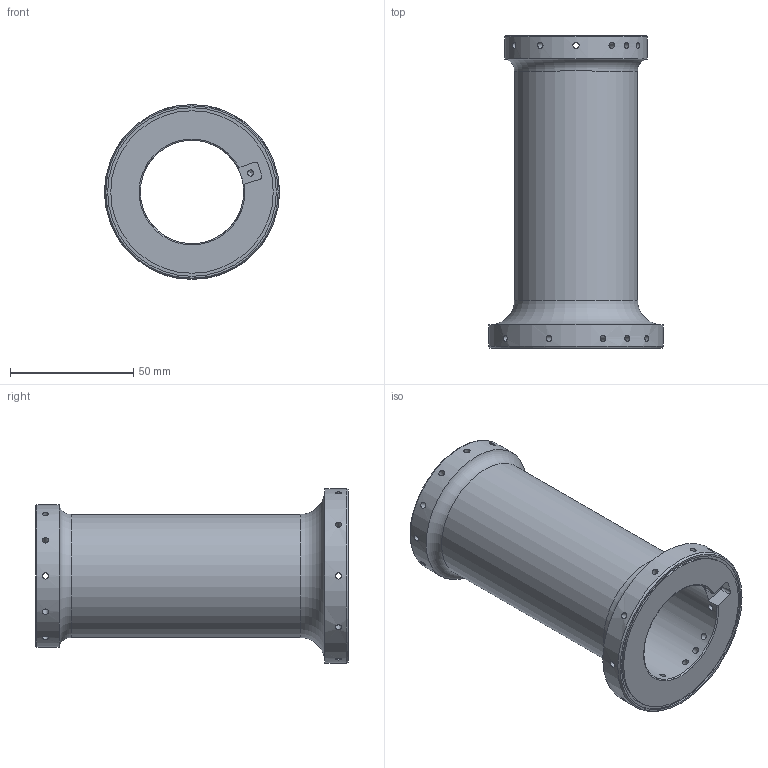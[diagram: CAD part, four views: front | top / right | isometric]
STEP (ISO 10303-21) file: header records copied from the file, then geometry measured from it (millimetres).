
FILE_DESCRIPTION (( 'STEP AP214' ), '1' );
FILE_NAME ('2-054-005 3kg三关节连杆.STEP', '2026-05-21T03:44:19', ( 'Windows User' ), ( 'P R C' ), 'SwSTEP 2.0', 'SolidWorks 2021', '' );
FILE_SCHEMA (( 'AUTOMOTIVE_DESIGN' ));
Length unit declared in the file: millimetre
Products named in the file (1): 2-054-005 3kg三关节连杆
Bounding box: 71 x 127 x 71 mm (x, y, z)
Volume: 101156.4 mm3; surface area: 45627.8 mm2
Topology: 1 solids, 1 shells, 55 faces, 142 edges, 92 vertices
Faces by surface type: cylinder 37, plane 11, torus 4, cone 3
Full cylindrical faces by diameter (mm): 2.5 x27, 42 x1, 50 x1, 54 x1, 56.4 x1, 58 x1, 66 x1, 68.5 x1, 71 x1
Entity records: 3665 total; most frequent: CARTESIAN_POINT 2171, ORIENTED_EDGE 188, DIRECTION 180, EDGE_LOOP 155, EDGE_CURVE 94, FACE_OUTER_BOUND 93, VERTEX_POINT 87, AXIS2_PLACEMENT_3D 84
